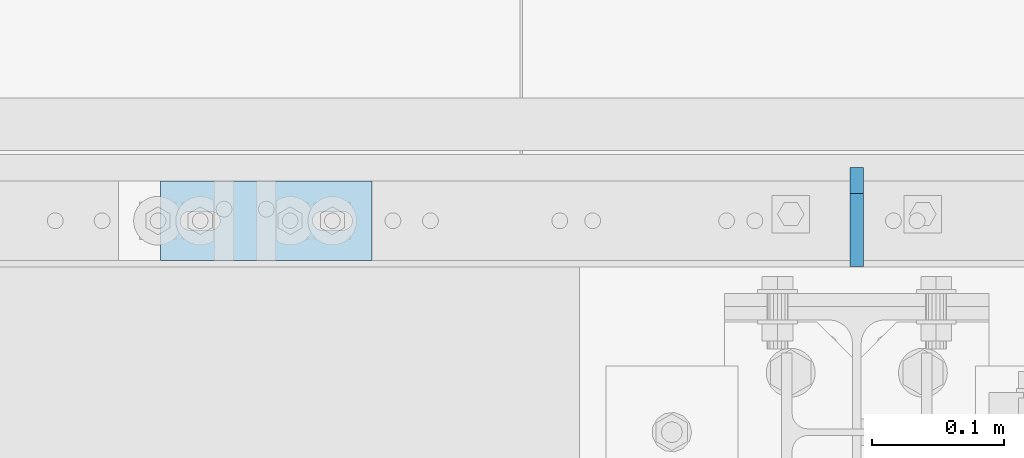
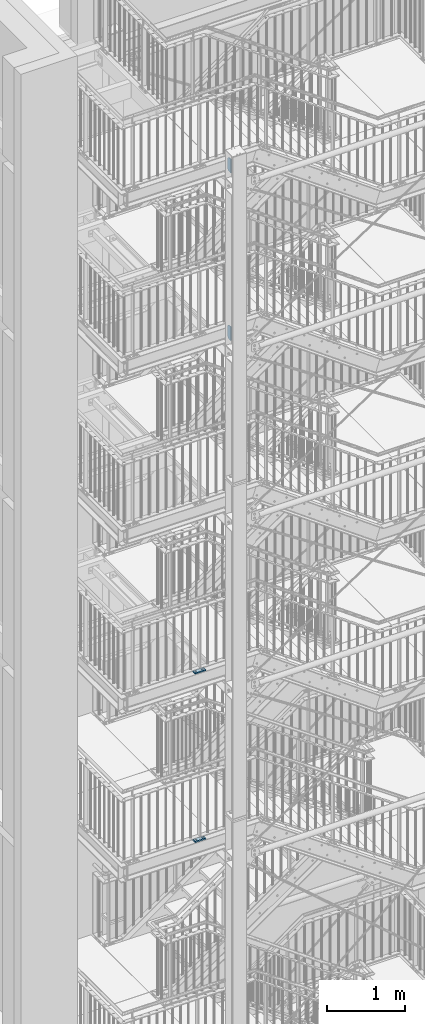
# One storey, part 157 of 831: 4 plates, 8 openings.
"""IFC2X3 building model written with IfcOpenShell, lengths in millimetres."""

from ifc_helpers import new_model, entity, si_unit, converted_unit, point, frame, frame_2d, origin, origin_with_axes, place, context, project, spatial, polyline, circle_curve, line_curve, trimmed, segment, composite_curve, outline, extrude, material, layer, layer_set, element, save


model = new_model("IFC2X3")

# Units and contexts
model_context = context("Model", 3, precision=1e-09, world=origin_with_axes())
ifc_project = project(units=[si_unit("LENGTHUNIT", "METRE", prefix="MILLI"), si_unit("AREAUNIT", "SQUARE_METRE"), si_unit("VOLUMEUNIT", "CUBIC_METRE"), converted_unit("PLANEANGLEUNIT", "DEGREE", entity("IfcPlaneAngleMeasure", 0.01745329), si_unit("PLANEANGLEUNIT", "RADIAN"), dimensions=[0, 0, 0, 0, 0, 0, 0])], contexts=[model_context])

# Site, building, storey
site_placement = place(None, origin_with_axes())
site = spatial("IfcSite", under=ifc_project, at=site_placement, Name="Site", CompositionType="ELEMENT")
building_placement = place(site_placement, origin_with_axes())
building = spatial("IfcBuilding", under=site, at=building_placement, Name="Struktur 1", CompositionType="ELEMENT")
storey_placement = place(building_placement, origin_with_axes())
storey = spatial("IfcBuildingStorey", under=building, at=storey_placement, Name="Default Storey", CompositionType="ELEMENT", Elevation=0.0)

# Plate, openings
ifc_material = material(Name="S235JR")
ifc_layer_1 = layer(ifc_material, 10.0)
ifc_layer_set_1 = layer_set([ifc_layer_1], Name="S235JR")
plate_1_placement = place(None, frame((4851.713402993, 4567.236971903, 15196.855161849), z_axis=(1.0, 0.0, 0.0), x_axis=(0.0, -0.996815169, 0.079746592)))
plate_1 = element("IfcPlate", 1, at=plate_1_placement, inside=storey, material=ifc_layer_set_1, Name="Stiffener#1", ObjectType="Stiffener#1", context=model_context, shape_type="SweptSolid", body=[
    extrude(outline(polyline([(0.0, 0.0), (75.239625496, 0.0), (57.877952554, 217.017159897), (-16.404697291, 205.05517107), (0.0, 0.0)])), origin_with_axes(), (0.0, 0.0, 1.0), 10.0),
])
opening_1_placement = place(plate_1_placement, frame((0.0, 0.0, -0.01), z_axis=(0.0, 0.0, 1.0), x_axis=(1.0, 0.0, 0.0)))
element("IfcOpeningElement", 2, at=opening_1_placement, cuts=plate_1, ObjectType="Opening", context=model_context, shape_type="SweptSolid", body=[
    extrude(outline(polyline([(-16.404697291, 205.05517107), (-14.809765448, 185.118867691), (3.34092195, 208.23487558), (-16.404697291, 205.05517107)])), origin(), (0.0, 0.0, 1.0), 10.02),
])
opening_2_placement = place(plate_1_placement, frame((0.0, 0.0, -0.01), z_axis=(0.0, 0.0, 1.0), x_axis=(1.0, 0.0, 0.0)))
element("IfcOpeningElement", 3, at=opening_2_placement, cuts=plate_1, ObjectType="Opening", context=model_context, shape_type="SweptSolid", body=[
    extrude(outline(polyline([(0.0, 0.0), (20.0, 0.0), (-1.594931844, 19.936303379), (0.0, 0.0)])), origin(), (0.0, 0.0, 1.0), 10.02),
])

ifc_layer_2 = layer(ifc_material, 20.0)
ifc_layer_set_2 = layer_set([ifc_layer_2], Name="S235JR")
plate_2_placement = place(None, frame((4329.791688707, 4496.736971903, 7320.0), z_axis=(0.0, 0.0, 1.0), x_axis=(1.0, 0.0, 0.0)))
plate_2 = element("IfcPlate", 4, at=plate_2_placement, inside=storey, material=ifc_layer_set_2, Name="Plate#512", ObjectType="Plate#512", context=model_context, shape_type="SweptSolid", body=[
    extrude(outline(polyline([(0.0, 0.0), (160.0, 0.0), (160.0, 60.0), (0.0, 60.0), (0.0, 0.0)])), origin_with_axes(), (0.0, 0.0, 1.0), 20.0),
])
opening_3_placement = place(plate_2_placement, frame((38.0, 37.001, 20.5), z_axis=(0.0, 0.0, 1.0), x_axis=(-1.0, 0.0, 0.0)))
element("IfcOpeningElement", 5, at=opening_3_placement, cuts=plate_2, ObjectType="Opening", context=model_context, shape_type="SweptSolid", body=[
    extrude(outline(composite_curve([segment(trimmed(line_curve((0.0, 0.0), (1.0, 0.0), 16.0), [point((0.0, 0.0))], [point((16.0, 0.0))], True, "CARTESIAN"), True, "CONTINUOUS"), segment(trimmed(circle_curve(frame_2d((16.0, 7.001), x_axis=(1.0, 0.0)), 7.001), [point((16.0, 0.0))], [point((16.0, 14.002))], True, "CARTESIAN"), True, "CONTINUOUS"), segment(trimmed(line_curve((16.0, 14.002), (-1.0, 0.0), 16.0), [point((16.0, 14.002))], [point((0.0, 14.002))], True, "CARTESIAN"), True, "CONTINUOUS"), segment(trimmed(circle_curve(frame_2d((0.0, 7.001), x_axis=(1.0, 0.0)), 7.001), [point((0.0, 14.002))], [point((0.0, 0.0))], True, "CARTESIAN"), True, "CONTINUOUS")], self_intersect=False)), origin(), (0.0, 0.0, -1.0), 21.0),
])
opening_4_placement = place(plate_2_placement, frame((138.0, 37.001, 20.5), z_axis=(0.0, 0.0, 1.0), x_axis=(-1.0, 0.0, 0.0)))
element("IfcOpeningElement", 6, at=opening_4_placement, cuts=plate_2, ObjectType="Opening", context=model_context, shape_type="SweptSolid", body=[
    extrude(outline(composite_curve([segment(trimmed(line_curve((0.0, 0.0), (1.0, 0.0), 16.0), [point((0.0, 0.0))], [point((16.0, 0.0))], True, "CARTESIAN"), True, "CONTINUOUS"), segment(trimmed(circle_curve(frame_2d((16.0, 7.001), x_axis=(1.0, 0.0)), 7.001), [point((16.0, 0.0))], [point((16.0, 14.002))], True, "CARTESIAN"), True, "CONTINUOUS"), segment(trimmed(line_curve((16.0, 14.002), (-1.0, 0.0), 16.0), [point((16.0, 14.002))], [point((0.0, 14.002))], True, "CARTESIAN"), True, "CONTINUOUS"), segment(trimmed(circle_curve(frame_2d((0.0, 7.001), x_axis=(1.0, 0.0)), 7.001), [point((0.0, 14.002))], [point((0.0, 0.0))], True, "CARTESIAN"), True, "CONTINUOUS")], self_intersect=False)), origin(), (0.0, 0.0, -1.0), 21.0),
])

plate_3_placement = place(None, frame((4329.791688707, 4496.736971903, 9952.0), z_axis=(0.0, 0.0, 1.0), x_axis=(1.0, 0.0, 0.0)))
plate_3 = element("IfcPlate", 7, at=plate_3_placement, inside=storey, material=ifc_layer_set_2, Name="Plate#512", ObjectType="Plate#512", context=model_context, shape_type="SweptSolid", body=[
    extrude(outline(polyline([(0.0, 0.0), (160.0, 0.0), (160.0, 60.0), (0.0, 60.0), (0.0, 0.0)])), origin_with_axes(), (0.0, 0.0, 1.0), 20.0),
])
opening_5_placement = place(plate_3_placement, frame((38.0, 37.001, 20.5), z_axis=(0.0, 0.0, 1.0), x_axis=(-1.0, 0.0, 0.0)))
element("IfcOpeningElement", 8, at=opening_5_placement, cuts=plate_3, ObjectType="Opening", context=model_context, shape_type="SweptSolid", body=[
    extrude(outline(composite_curve([segment(trimmed(line_curve((0.0, 0.0), (1.0, 0.0), 16.0), [point((0.0, 0.0))], [point((16.0, 0.0))], True, "CARTESIAN"), True, "CONTINUOUS"), segment(trimmed(circle_curve(frame_2d((16.0, 7.001), x_axis=(1.0, 0.0)), 7.001), [point((16.0, 0.0))], [point((16.0, 14.002))], True, "CARTESIAN"), True, "CONTINUOUS"), segment(trimmed(line_curve((16.0, 14.002), (-1.0, 0.0), 16.0), [point((16.0, 14.002))], [point((0.0, 14.002))], True, "CARTESIAN"), True, "CONTINUOUS"), segment(trimmed(circle_curve(frame_2d((0.0, 7.001), x_axis=(1.0, 0.0)), 7.001), [point((0.0, 14.002))], [point((0.0, 0.0))], True, "CARTESIAN"), True, "CONTINUOUS")], self_intersect=False)), origin(), (0.0, 0.0, -1.0), 21.0),
])
opening_6_placement = place(plate_3_placement, frame((138.0, 37.001, 20.5), z_axis=(0.0, 0.0, 1.0), x_axis=(-1.0, 0.0, 0.0)))
element("IfcOpeningElement", 9, at=opening_6_placement, cuts=plate_3, ObjectType="Opening", context=model_context, shape_type="SweptSolid", body=[
    extrude(outline(composite_curve([segment(trimmed(line_curve((0.0, 0.0), (1.0, 0.0), 16.0), [point((0.0, 0.0))], [point((16.0, 0.0))], True, "CARTESIAN"), True, "CONTINUOUS"), segment(trimmed(circle_curve(frame_2d((16.0, 7.001), x_axis=(1.0, 0.0)), 7.001), [point((16.0, 0.0))], [point((16.0, 14.002))], True, "CARTESIAN"), True, "CONTINUOUS"), segment(trimmed(line_curve((16.0, 14.002), (-1.0, 0.0), 16.0), [point((16.0, 14.002))], [point((0.0, 14.002))], True, "CARTESIAN"), True, "CONTINUOUS"), segment(trimmed(circle_curve(frame_2d((0.0, 7.001), x_axis=(1.0, 0.0)), 7.001), [point((0.0, 14.002))], [point((0.0, 0.0))], True, "CARTESIAN"), True, "CONTINUOUS")], self_intersect=False)), origin(), (0.0, 0.0, -1.0), 21.0),
])

plate_4_placement = place(None, frame((4851.713402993, 4567.236971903, 17816.855161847), z_axis=(1.0, 0.0, 0.0), x_axis=(0.0, -0.996815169, 0.079746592)))
plate_4 = element("IfcPlate", 10, at=plate_4_placement, inside=storey, material=ifc_layer_set_1, Name="Stiffener#1", ObjectType="Stiffener#1", context=model_context, shape_type="SweptSolid", body=[
    extrude(outline(polyline([(0.0, 0.0), (75.239625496, 0.0), (57.877952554, 217.017159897), (-16.404697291, 205.05517107), (0.0, 0.0)])), origin_with_axes(), (0.0, 0.0, 1.0), 10.0),
])
opening_7_placement = place(plate_4_placement, frame((0.0, 0.0, -0.01), z_axis=(0.0, 0.0, 1.0), x_axis=(1.0, 0.0, 0.0)))
element("IfcOpeningElement", 11, at=opening_7_placement, cuts=plate_4, ObjectType="Opening", context=model_context, shape_type="SweptSolid", body=[
    extrude(outline(polyline([(-16.404697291, 205.05517107), (-14.809765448, 185.118867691), (3.34092195, 208.23487558), (-16.404697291, 205.05517107)])), origin(), (0.0, 0.0, 1.0), 10.02),
])
opening_8_placement = place(plate_4_placement, frame((0.0, 0.0, -0.01), z_axis=(0.0, 0.0, 1.0), x_axis=(1.0, 0.0, 0.0)))
element("IfcOpeningElement", 12, at=opening_8_placement, cuts=plate_4, ObjectType="Opening", context=model_context, shape_type="SweptSolid", body=[
    extrude(outline(polyline([(0.0, 0.0), (20.0, 0.0), (-1.594931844, 19.936303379), (0.0, 0.0)])), origin(), (0.0, 0.0, 1.0), 10.02),
])

save(model, "model.ifc")
